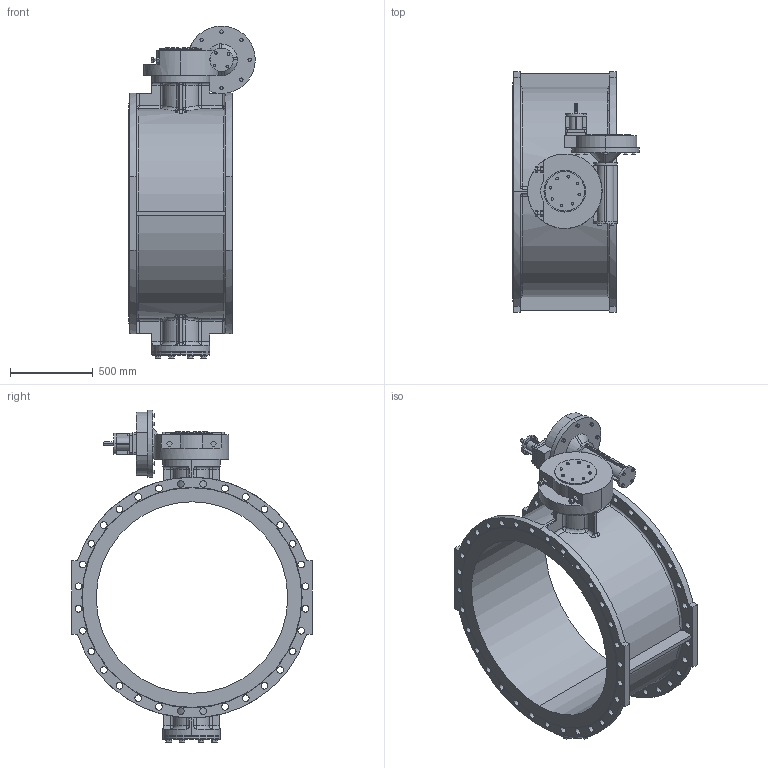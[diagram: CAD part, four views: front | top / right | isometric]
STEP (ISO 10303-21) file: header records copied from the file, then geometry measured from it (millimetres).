
FILE_DESCRIPTION (( 'STEP AP203' ), '1' );
FILE_NAME ('O_756_1_DN1200_0XX020X_REV01.step', '2020-08-19T09:03:09', ( '' ), ( '' ), 'SwSTEP 2.0', 'SolidWorks 2019', '' );
FILE_SCHEMA (( 'CONFIG_CONTROL_DESIGN' ));
Length unit declared in the file: millimetre
Products named in the file (1): O_756_1_DN1200_0XX020X_REV01
Bounding box: 765 x 1455 x 2007.2 mm (x, y, z)
Volume: 231538603.4 mm3; surface area: 8972820.7 mm2
Topology: 1 solids, 1 shells, 840 faces, 2135 edges, 1336 vertices
Faces by surface type: cylinder 348, plane 310, bspline 106, torus 36, sphere 32, cone 8
Entity records: 32266 total; most frequent: CARTESIAN_POINT 11907, ORIENTED_EDGE 4222, DIRECTION 4189, EDGE_CURVE 2111, AXIS2_PLACEMENT_3D 1590, VERTEX_POINT 1336, EDGE_LOOP 1049, VECTOR 1009
